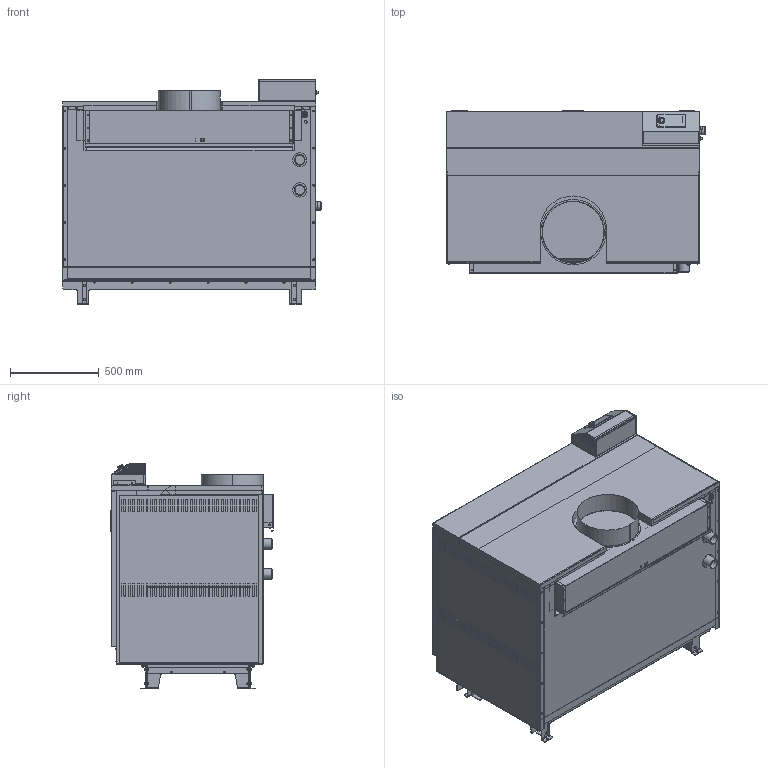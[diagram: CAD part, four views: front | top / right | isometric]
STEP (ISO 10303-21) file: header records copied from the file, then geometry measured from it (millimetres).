
FILE_DESCRIPTION(('STEP AP203'), '1');
FILE_NAME('ÊÅÂÌ.3107.00.00.000-03 ÑÁ Êîòåë ñòàëüíîé âîäîãðåéíûé TITAN V Ì', '2026-07-22T09:06:33', (''), (''), 'ASCON STEP Converter 1.6', 'ASCON Math Kernel', '');
FILE_SCHEMA(('CONFIG_CONTROL_DESIGN'));
Length unit declared in the file: millimetre
Products named in the file (1): КЕВМ.3107.00.00.000-03 СБ
Bounding box: 1461 x 919.43 x 1275 mm (x, y, z)
Volume: 1106385993.7 mm3; surface area: 24800398.6 mm2
Topology: 10 solids, 10 shells, 6100 faces, 15917 edges, 10149 vertices
Faces by surface type: plane 3856, cylinder 1552, bspline 429, cone 131, torus 92, sphere 38, extrusion 2
Full cylindrical faces by diameter (mm): 1.5 x6, 2 x3, 2.45 x14, 2.5 x6, 3.5 x32, 4 x36, 4.2 x42, 4.5 x36, 4.7 x1, 5 x4, 5.2 x4, 6 x5, 6.4 x4, 7 x2, 8 x44, 8.5 x28, 9 x20, 10 x41, 10.421 x1, 12 x1, 14 x1, 14.795 x1, 15 x1, 16 x20, 18 x4, 19.169 x1, 23.542 x1, 24.5 x2, 27.916 x1, 30.664 x1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
Entity records: 222278 total; most frequent: CARTESIAN_POINT 73439, ORIENTED_EDGE 30604, DIRECTION 29293, EDGE_CURVE 15302, VECTOR 10251, LINE 10249, VERTEX_POINT 10148, AXIS2_PLACEMENT_3D 9521
